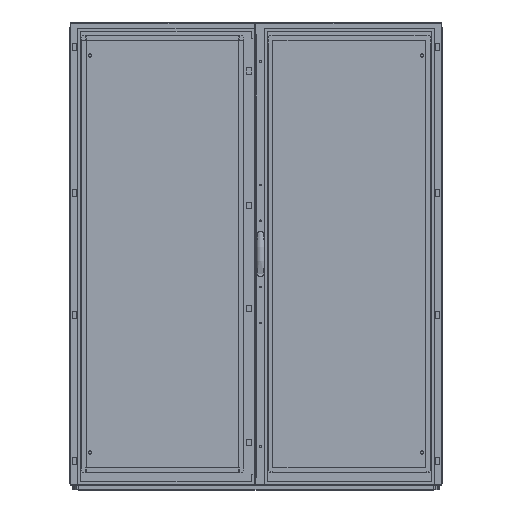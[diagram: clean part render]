
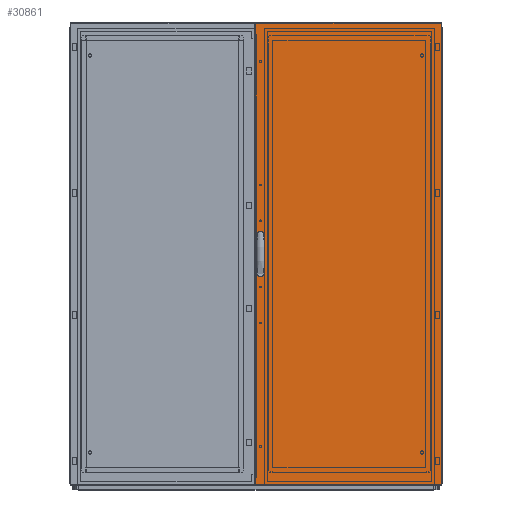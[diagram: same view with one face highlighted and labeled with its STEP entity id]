
A CAD part, top view. The second image highlights one B-rep face of the part: STEP entity #30861.
In plain terms, the highlighted planar face has unit normal (0, 0, 1) as drawn and (0, 0, -1) by its records, which use the part's own axes.
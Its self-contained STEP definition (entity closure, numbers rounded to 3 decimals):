
#392=CIRCLE('',#34652,2.6);
#393=CIRCLE('',#34653,2.6);
#3421=ORIENTED_EDGE('',*,*,#10979,.T.);
#3422=ORIENTED_EDGE('',*,*,#10980,.T.);
#3423=ORIENTED_EDGE('',*,*,#10981,.T.);
#3424=ORIENTED_EDGE('',*,*,#10982,.T.);
#3425=ORIENTED_EDGE('',*,*,#10983,.T.);
#3426=ORIENTED_EDGE('',*,*,#10984,.T.);
#3427=ORIENTED_EDGE('',*,*,#10985,.T.);
#3428=ORIENTED_EDGE('',*,*,#10986,.T.);
#3429=ORIENTED_EDGE('',*,*,#10987,.T.);
#3430=ORIENTED_EDGE('',*,*,#10988,.T.);
#3431=ORIENTED_EDGE('',*,*,#10989,.T.);
#3432=ORIENTED_EDGE('',*,*,#10990,.T.);
#3433=ORIENTED_EDGE('',*,*,#10991,.T.);
#3434=ORIENTED_EDGE('',*,*,#10992,.T.);
#3435=ORIENTED_EDGE('',*,*,#10993,.T.);
#3436=ORIENTED_EDGE('',*,*,#10994,.T.);
#3437=ORIENTED_EDGE('',*,*,#10995,.T.);
#3438=ORIENTED_EDGE('',*,*,#10996,.F.);
#3439=ORIENTED_EDGE('',*,*,#10997,.F.);
#3440=ORIENTED_EDGE('',*,*,#10998,.T.);
#3441=ORIENTED_EDGE('',*,*,#10999,.T.);
#3442=ORIENTED_EDGE('',*,*,#11000,.T.);
#10979=EDGE_CURVE('',#14975,#14976,#18192,.T.);
#10980=EDGE_CURVE('',#14976,#14977,#18193,.T.);
#10981=EDGE_CURVE('',#14977,#14978,#18194,.T.);
#10982=EDGE_CURVE('',#14978,#14979,#18195,.T.);
#10983=EDGE_CURVE('',#14979,#14980,#18196,.T.);
#10984=EDGE_CURVE('',#14980,#14981,#18197,.T.);
#10985=EDGE_CURVE('',#14981,#14982,#18198,.T.);
#10986=EDGE_CURVE('',#14982,#14983,#18199,.T.);
#10987=EDGE_CURVE('',#14983,#14984,#18200,.T.);
#10988=EDGE_CURVE('',#14984,#14985,#18201,.T.);
#10989=EDGE_CURVE('',#14985,#14986,#18202,.T.);
#10990=EDGE_CURVE('',#14986,#14987,#18203,.T.);
#10991=EDGE_CURVE('',#14987,#14988,#18204,.T.);
#10992=EDGE_CURVE('',#14988,#14989,#18205,.T.);
#10993=EDGE_CURVE('',#14989,#14990,#18206,.T.);
#10994=EDGE_CURVE('',#14990,#14975,#18207,.T.);
#10995=EDGE_CURVE('',#14991,#14992,#18208,.T.);
#10996=EDGE_CURVE('',#14993,#14992,#18209,.T.);
#10997=EDGE_CURVE('',#14994,#14993,#18210,.T.);
#10998=EDGE_CURVE('',#14994,#14991,#18211,.T.);
#10999=EDGE_CURVE('',#14995,#14995,#392,.T.);
#11000=EDGE_CURVE('',#14996,#14996,#393,.T.);
#14975=VERTEX_POINT('',#47098);
#14976=VERTEX_POINT('',#47099);
#14977=VERTEX_POINT('',#47101);
#14978=VERTEX_POINT('',#47103);
#14979=VERTEX_POINT('',#47105);
#14980=VERTEX_POINT('',#47107);
#14981=VERTEX_POINT('',#47109);
#14982=VERTEX_POINT('',#47111);
#14983=VERTEX_POINT('',#47113);
#14984=VERTEX_POINT('',#47115);
#14985=VERTEX_POINT('',#47117);
#14986=VERTEX_POINT('',#47119);
#14987=VERTEX_POINT('',#47121);
#14988=VERTEX_POINT('',#47123);
#14989=VERTEX_POINT('',#47125);
#14990=VERTEX_POINT('',#47127);
#14991=VERTEX_POINT('',#47130);
#14992=VERTEX_POINT('',#47131);
#14993=VERTEX_POINT('',#47133);
#14994=VERTEX_POINT('',#47135);
#14995=VERTEX_POINT('',#47138);
#14996=VERTEX_POINT('',#47140);
#18192=LINE('',#47097,#22147);
#18193=LINE('',#47100,#22148);
#18194=LINE('',#47102,#22149);
#18195=LINE('',#47104,#22150);
#18196=LINE('',#47106,#22151);
#18197=LINE('',#47108,#22152);
#18198=LINE('',#47110,#22153);
#18199=LINE('',#47112,#22154);
#18200=LINE('',#47114,#22155);
#18201=LINE('',#47116,#22156);
#18202=LINE('',#47118,#22157);
#18203=LINE('',#47120,#22158);
#18204=LINE('',#47122,#22159);
#18205=LINE('',#47124,#22160);
#18206=LINE('',#47126,#22161);
#18207=LINE('',#47128,#22162);
#18208=LINE('',#47129,#22163);
#18209=LINE('',#47132,#22164);
#18210=LINE('',#47134,#22165);
#18211=LINE('',#47136,#22166);
#22147=VECTOR('',#38539,1000.);
#22148=VECTOR('',#38540,1000.);
#22149=VECTOR('',#38541,1000.);
#22150=VECTOR('',#38542,1000.);
#22151=VECTOR('',#38543,1000.);
#22152=VECTOR('',#38544,1000.);
#22153=VECTOR('',#38545,1000.);
#22154=VECTOR('',#38546,1000.);
#22155=VECTOR('',#38547,1000.);
#22156=VECTOR('',#38548,1000.);
#22157=VECTOR('',#38549,1000.);
#22158=VECTOR('',#38550,1000.);
#22159=VECTOR('',#38551,1000.);
#22160=VECTOR('',#38552,1000.);
#22161=VECTOR('',#38553,1000.);
#22162=VECTOR('',#38554,1000.);
#22163=VECTOR('',#38555,1000.);
#22164=VECTOR('',#38556,1000.);
#22165=VECTOR('',#38557,1000.);
#22166=VECTOR('',#38558,1000.);
#25598=EDGE_LOOP('',(#3421,#3422,#3423,#3424,#3425,#3426,#3427,#3428,#3429,
#3430,#3431,#3432,#3433,#3434,#3435,#3436));
#25599=EDGE_LOOP('',(#3437,#3438,#3439,#3440));
#25600=EDGE_LOOP('',(#3441));
#25601=EDGE_LOOP('',(#3442));
#27554=FACE_BOUND('',#25598,.T.);
#27555=FACE_BOUND('',#25599,.T.);
#27556=FACE_BOUND('',#25600,.T.);
#27557=FACE_BOUND('',#25601,.T.);
#29331=PLANE('',#34651);
#30861=ADVANCED_FACE('',(#27554,#27555,#27556,#27557),#29331,.F.);
#34651=AXIS2_PLACEMENT_3D('',#47096,#38537,#38538);
#34652=AXIS2_PLACEMENT_3D('',#47137,#38559,#38560);
#34653=AXIS2_PLACEMENT_3D('',#47139,#38561,#38562);
#38537=DIRECTION('',(0.,0.,1.));
#38538=DIRECTION('',(1.,0.,0.));
#38539=DIRECTION('',(0.,-1.,0.));
#38540=DIRECTION('',(0.342,-0.94,0.));
#38541=DIRECTION('',(1.,0.,0.));
#38542=DIRECTION('',(0.,1.,0.));
#38543=DIRECTION('',(1.,0.,0.));
#38544=DIRECTION('',(0.,-1.,0.));
#38545=DIRECTION('',(1.,0.,0.));
#38546=DIRECTION('',(0.342,0.94,0.));
#38547=DIRECTION('',(0.,1.,0.));
#38548=DIRECTION('',(-0.342,0.94,0.));
#38549=DIRECTION('',(-1.,0.,0.));
#38550=DIRECTION('',(0.,-1.,0.));
#38551=DIRECTION('',(-1.,0.,0.));
#38552=DIRECTION('',(0.,1.,0.));
#38553=DIRECTION('',(-1.,0.,0.));
#38554=DIRECTION('',(-0.342,-0.94,0.));
#38555=DIRECTION('',(-1.,0.,0.));
#38556=DIRECTION('',(0.,-1.,0.));
#38557=DIRECTION('',(-1.,0.,0.));
#38558=DIRECTION('',(0.,-1.,0.));
#38559=DIRECTION('',(0.,0.,1.));
#38560=DIRECTION('',(1.,0.,0.));
#38561=DIRECTION('',(0.,0.,1.));
#38562=DIRECTION('',(1.,0.,0.));
#47096=CARTESIAN_POINT('',(399.,1982.,-16.8));
#47097=CARTESIAN_POINT('',(365.45,1056.256,-16.8));
#47098=CARTESIAN_POINT('',(365.45,1056.256,-16.8));
#47099=CARTESIAN_POINT('',(365.45,925.744,-16.8));
#47100=CARTESIAN_POINT('',(365.45,925.744,-16.8));
#47101=CARTESIAN_POINT('',(367.45,920.25,-16.8));
#47102=CARTESIAN_POINT('',(367.45,920.25,-16.8));
#47103=CARTESIAN_POINT('',(372.7,920.25,-16.8));
#47104=CARTESIAN_POINT('',(372.7,920.25,-16.8));
#47105=CARTESIAN_POINT('',(372.7,928.,-16.8));
#47106=CARTESIAN_POINT('',(372.7,928.,-16.8));
#47107=CARTESIAN_POINT('',(383.7,928.,-16.8));
#47108=CARTESIAN_POINT('',(383.7,928.,-16.8));
#47109=CARTESIAN_POINT('',(383.7,920.25,-16.8));
#47110=CARTESIAN_POINT('',(383.7,920.25,-16.8));
#47111=CARTESIAN_POINT('',(388.95,920.25,-16.8));
#47112=CARTESIAN_POINT('',(388.95,920.25,-16.8));
#47113=CARTESIAN_POINT('',(390.95,925.744,-16.8));
#47114=CARTESIAN_POINT('',(390.95,925.744,-16.8));
#47115=CARTESIAN_POINT('',(390.95,1056.256,-16.8));
#47116=CARTESIAN_POINT('',(390.95,1056.256,-16.8));
#47117=CARTESIAN_POINT('',(388.95,1061.75,-16.8));
#47118=CARTESIAN_POINT('',(388.95,1061.75,-16.8));
#47119=CARTESIAN_POINT('',(383.7,1061.75,-16.8));
#47120=CARTESIAN_POINT('',(383.7,1061.75,-16.8));
#47121=CARTESIAN_POINT('',(383.7,1054.,-16.8));
#47122=CARTESIAN_POINT('',(383.7,1054.,-16.8));
#47123=CARTESIAN_POINT('',(372.7,1054.,-16.8));
#47124=CARTESIAN_POINT('',(372.7,1054.,-16.8));
#47125=CARTESIAN_POINT('',(372.7,1061.75,-16.8));
#47126=CARTESIAN_POINT('',(372.7,1061.75,-16.8));
#47127=CARTESIAN_POINT('',(367.45,1061.75,-16.8));
#47128=CARTESIAN_POINT('',(367.45,1061.75,-16.8));
#47129=CARTESIAN_POINT('',(399.,0.,-16.8));
#47130=CARTESIAN_POINT('',(399.,0.,-16.8));
#47131=CARTESIAN_POINT('',(-399.,0.,-16.8));
#47132=CARTESIAN_POINT('',(-399.,1982.,-16.8));
#47133=CARTESIAN_POINT('',(-399.,1982.,-16.8));
#47134=CARTESIAN_POINT('',(399.,1982.,-16.8));
#47135=CARTESIAN_POINT('',(399.,1982.,-16.8));
#47136=CARTESIAN_POINT('',(399.,1982.,-16.8));
#47137=CARTESIAN_POINT('',(378.2,1061.,-16.8));
#47138=CARTESIAN_POINT('',(380.8,1061.,-16.8));
#47139=CARTESIAN_POINT('',(378.2,921.,-16.8));
#47140=CARTESIAN_POINT('',(380.8,921.,-16.8));
